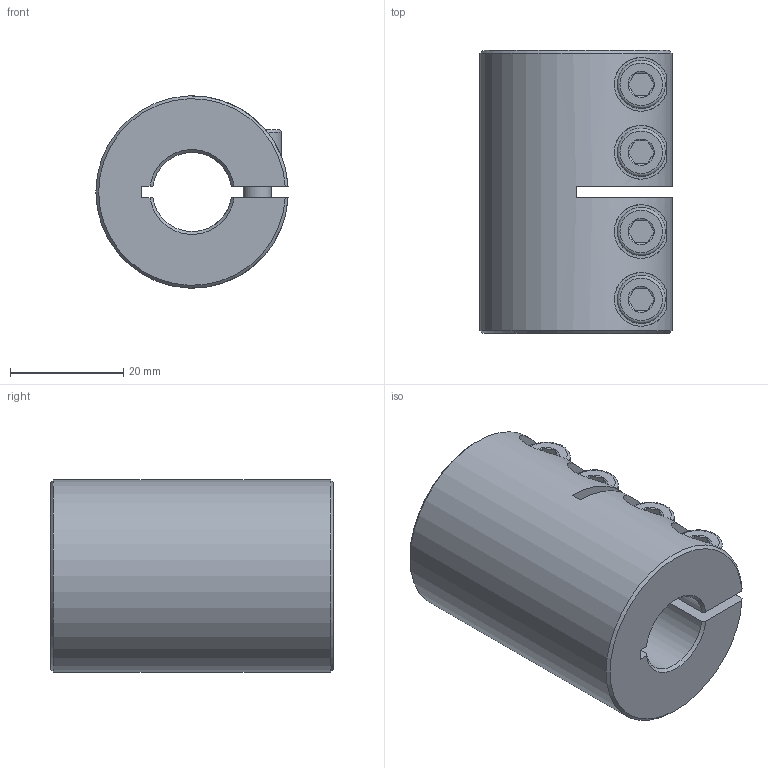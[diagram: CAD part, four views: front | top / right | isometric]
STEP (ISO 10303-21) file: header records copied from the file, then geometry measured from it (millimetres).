
FILE_DESCRIPTION( ( 'Unknown' ), '1' );
FILE_NAME( 'K:/Konstruktion/Fertigungszeichnungen/Schalenkupplung/KBST/KBST-14.stp', 'Unknown', ( 'Unknown' ), ( 'Unknown' ), 'PSStep 16.0.42', 'Unknown', ' ' );
FILE_SCHEMA( ( 'AUTOMOTIVE_DESIGN { 1 0 10303 214 1 1 1 1 }' ) );
Length unit declared in the file: millimetre
Products named in the file (3): Assem1; ISO EN DIN 4762 M5x16; KBST-14
Assembly tree (5 placements, depth 2):
  Assem1
    ISO EN DIN 4762 M5x16  x4
    KBST-14
Bounding box: 33.97 x 50 x 34 mm (x, y, z)
Volume: 35209.1 mm3; surface area: 13727.7 mm2
Topology: 5 solids, 5 shells, 124 faces, 258 edges, 156 vertices
Faces by surface type: plane 59, cone 34, cylinder 23, torus 8
Full cylindrical faces by diameter (mm): 4.134 x4, 5 x4, 5.3 x4, 8.5 x4
Entity records: 2744 total; most frequent: CARTESIAN_POINT 841, DIRECTION 282, ORIENTED_EDGE 250, EDGE_CURVE 125, AXIS2_PLACEMENT_3D 116, EDGE_LOOP 96, VERTEX_POINT 87, FACE_OUTER_BOUND 73
